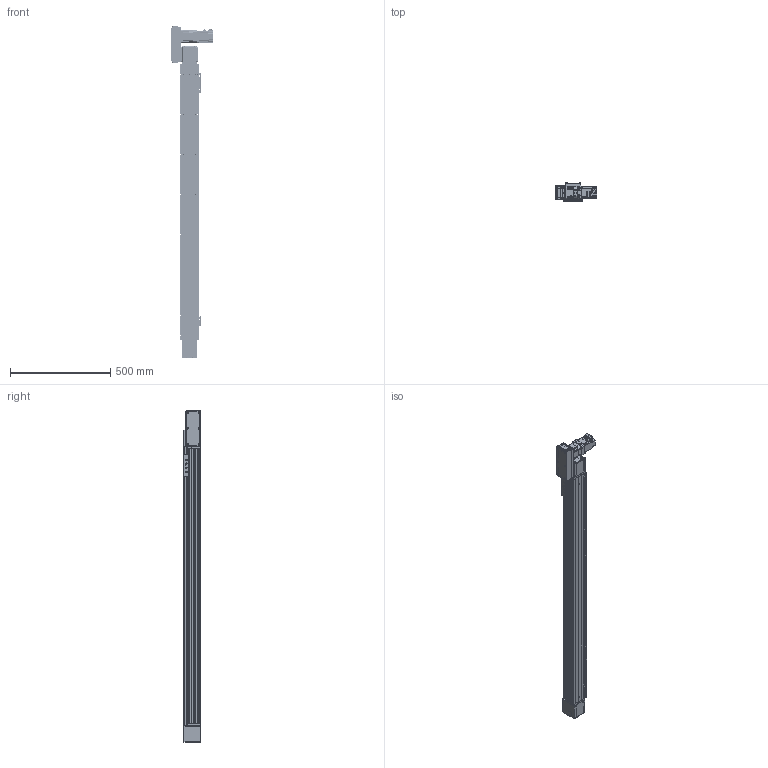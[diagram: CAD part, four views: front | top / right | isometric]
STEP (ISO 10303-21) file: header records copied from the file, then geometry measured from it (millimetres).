
FILE_DESCRIPTION(/* description */ ('MANUFACTURE'),/* implementation_level */ '2;1');
FILE_NAME(/* name */ '\\192.168.0.160\disk1\HAN SHIN Master\B-설계부문\C-표준\B-2024년\BC02-표준도면\+로봇 개선표준도면\홈페이지 표준 도면\홈페이지 최종 작업 폴더\3D\HSB\HSB75\L\HSB75-L2G-N-1200-R.stp',/* time_stamp */ '2025-04-30T12:39:34+09:00',/* author */ ('user'),/* organization */ (''),/* preprocessor_version */ 'ST-DEVELOPER v18.1',/* originating_system */ 'Autodesk Inventor 2022',/* authorisation */ 'LIP');
FILE_SCHEMA (('CONFIG_CONTROL_DESIGN'));
Products named in the file (38): HSB75-L2G-N-0500-R; HSB75 BASE; HSB75 TABLE; HSB75 FRONT HOUSING (Connecting); HSB160 SHAFT-1; C-E6304ZZ; HSB75 FRONT COVER; UPCOVER; HS75 SIDE COVER; HSB75 REAR HOUSING; HSB75 REAR PULLEY; HSB55 REAR SHAFT; HSB55 TENSION PLATE; 6002ZZ; 6002ZZ Outer ring; 6002ZZ Shield1; 6002ZZ Inner ring; 6002ZZ Ball; 6002ZZ Shield2; HS75 SENSOR DOG-1; NIPPLE CAP(신규); hsr_ftht_A-M6F_grease_nipple_joint; HG90STOPPER - 27L; M4-6(렌치볼트); HSB75 END COVER; HSB160 BEARING OVER; HSB55 ACRYL COVER; HSB75 ACRYL COVER-END; SENSOR BRK(EE-SX674A); EE_SX674A; PGX62-H-1_3; hg-kr23_; MOTOR PLATE-200W(MITSUBISHI); HR75-LR-BELT COVER(200W); HC75-LR-MOTOR PLATE(200W)-사출; HR75-BELT COVER-COVER; HR75-BELT COVER-COVER2; HR65-BELT COVER-COVER3
Assembly tree (65 placements, depth 3):
  HSB75-L2G-N-0500-R
    HSB75 BASE
    HSB75 TABLE
    HSB75 FRONT HOUSING (Connecting)
    HSB160 SHAFT-1
    HSB75 FRONT COVER  x2
    C-E6304ZZ  x2
    UPCOVER
    HS75 SIDE COVER  x2
    HSB75 REAR HOUSING
    HSB75 REAR PULLEY
    HSB55 REAR SHAFT
    HSB55 TENSION PLATE  x2
    6002ZZ  x2
      6002ZZ Outer ring
      6002ZZ Shield1
      6002ZZ Inner ring
      6002ZZ Ball
      6002ZZ Shield2
    HS75 SENSOR DOG-1
    SENSOR BRK(EE-SX674A)  x3
    EE_SX674A  x3
    NIPPLE CAP(신규)  x2
    hsr_ftht_A-M6F_grease_nipple_joint  x2
    HG90STOPPER - 27L  x2
    M4-6(렌치볼트)  x2
    HSB75 END COVER
    HSB160 BEARING OVER
    HSB55 ACRYL COVER  x3
    HSB75 ACRYL COVER-END
    PGX62-H-1_3
    hg-kr23_
    MOTOR PLATE-200W(MITSUBISHI)
    HR75-LR-BELT COVER(200W)
    HC75-LR-MOTOR PLATE(200W)-사출
    HR75-BELT COVER-COVER
    HR75-BELT COVER-COVER2
    HR65-BELT COVER-COVER3  x2
Bounding box: 206.6 x 89 x 1656 mm (x, y, z)
Volume: 4640914.4 mm3; surface area: 1782277.2 mm2
Topology: 97 solids, 97 shells, 5290 faces, 14579 edges, 9589 vertices
Faces by surface type: plane 3809, cylinder 1073, cone 302, torus 45, sphere 42, bspline 19
Full cylindrical faces by diameter (mm): 2 x12, 2.013 x4, 2.459 x64, 3 x10, 3.242 x34, 3.3 x5, 3.4 x20, 3.5 x22, 4 x3, 4.134 x53, 4.2 x10, 4.343 x2, 4.5 x30, 4.917 x20, 5 x28, 5.5 x40, 5.6 x10, 5.8 x4, 5.9 x8, 6 x6, 6.5 x4, 7 x3, 8 x9, 8.5 x4, 9 x12, 9.5 x24, 12 x2, 14 x1, 14.2 x1, 14.3 x2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
Entity records: 140215 total; most frequent: CARTESIAN_POINT 28038, ORIENTED_EDGE 23208, DIRECTION 22408, EDGE_CURVE 11604, LINE 8756, VECTOR 8756, VERTEX_POINT 7693, AXIS2_PLACEMENT_3D 6826
